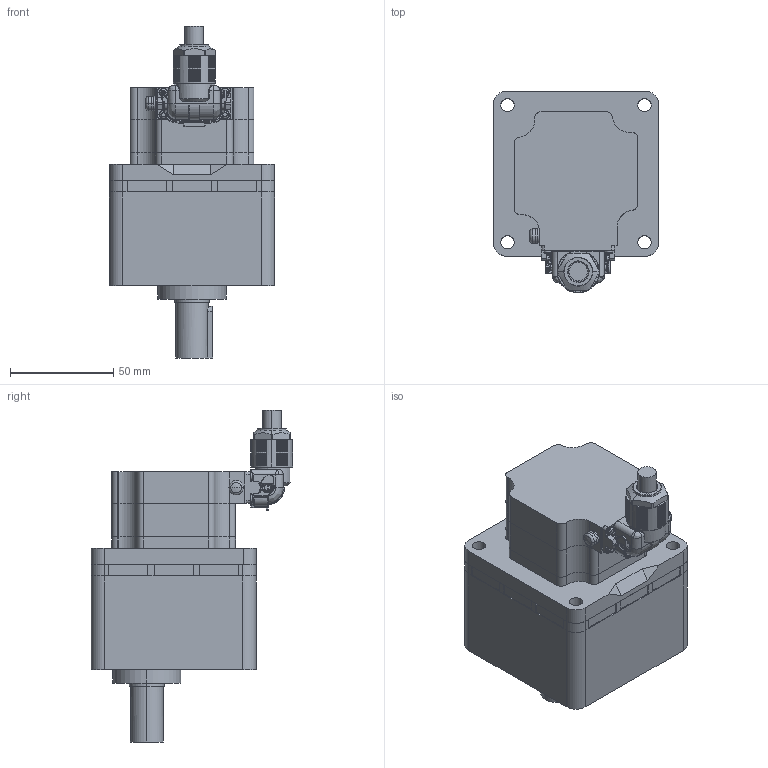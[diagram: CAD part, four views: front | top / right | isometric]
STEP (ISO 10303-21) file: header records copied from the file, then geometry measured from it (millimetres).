
FILE_DESCRIPTION (( 'STEP AP203' ), '1' );
FILE_NAME ('A1578C.step', '2025-10-06T05:57:47', ( '' ), ( '' ), 'SwSTEP 2.0', 'SolidWorks 2023', '' );
FILE_SCHEMA (( 'CONFIG_CONTROL_DESIGN' ));
Length unit declared in the file: millimetre
Products named in the file (1): A1578C
Bounding box: 80 x 97.8 x 160.95 mm (x, y, z)
Volume: 518972.8 mm3; surface area: 66919.7 mm2
Topology: 4 solids, 9 shells, 1256 faces, 3239 edges, 1998 vertices
Faces by surface type: plane 561, cylinder 488, bspline 148, cone 32, torus 25, sphere 2
Entity records: 41737 total; most frequent: CARTESIAN_POINT 12531, ORIENTED_EDGE 6430, DIRECTION 5676, EDGE_CURVE 3215, VERTEX_POINT 1998, AXIS2_PLACEMENT_3D 1936, VECTOR 1804, LINE 1804
